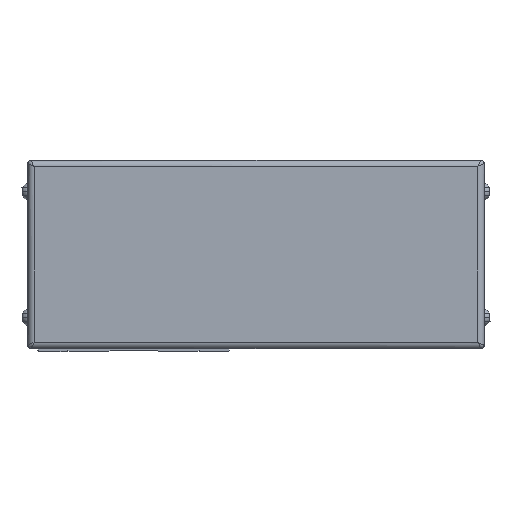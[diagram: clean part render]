
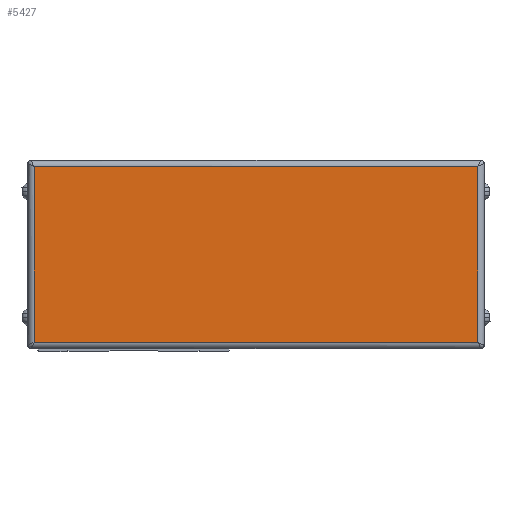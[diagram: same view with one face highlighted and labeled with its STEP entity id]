
A CAD part, left-side view. The second image highlights one B-rep face of the part: STEP entity #5427.
In plain terms, the highlighted planar face has unit normal (-1, 0, 0) as drawn and (0, 0, 1) by its records, which use the part's own axes.
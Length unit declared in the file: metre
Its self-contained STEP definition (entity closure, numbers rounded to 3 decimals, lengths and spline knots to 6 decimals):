
#5427=ADVANCED_FACE('',(#11209),#11210,.T.);
#11209=FACE_OUTER_BOUND('',#20187,.T.);
#11210=PLANE('',#20188);
#20187=EDGE_LOOP('',(#34117,#34118,#34119,#34120));
#20188=AXIS2_PLACEMENT_3D('',#34121,#34122,#34123);
#34117=ORIENTED_EDGE('',*,*,#44233,.F.);
#34118=ORIENTED_EDGE('',*,*,#46343,.F.);
#34119=ORIENTED_EDGE('',*,*,#46344,.F.);
#34120=ORIENTED_EDGE('',*,*,#42158,.F.);
#34121=CARTESIAN_POINT('',(-0.009,-0.053256,0.033889));
#34122=DIRECTION('',(0.0,0.0,1.0));
#34123=DIRECTION('',(1.0,0.0,0.0));
#42158=EDGE_CURVE('',#49368,#49371,#49372,.T.);
#44233=EDGE_CURVE('',#52768,#49368,#52770,.T.);
#46343=EDGE_CURVE('',#55331,#52768,#55851,.T.);
#46344=EDGE_CURVE('',#49371,#55331,#55852,.T.);
#49368=VERTEX_POINT('',#59634);
#49371=VERTEX_POINT('',#59646);
#49372=LINE('',#59647,#59648);
#52768=VERTEX_POINT('',#64768);
#52770=LINE('',#64779,#64780);
#55331=VERTEX_POINT('',#68587);
#55851=LINE('',#69367,#69368);
#55852=LINE('',#69369,#69370);
#59634=CARTESIAN_POINT('',(0.019,-0.123956,0.033889));
#59646=CARTESIAN_POINT('',(-0.037,-0.123956,0.033889));
#59647=CARTESIAN_POINT('',(-0.009,-0.123956,0.033889));
#59648=VECTOR('',#73158,1.0);
#64768=CARTESIAN_POINT('',(0.019,0.017444,0.033889));
#64779=CARTESIAN_POINT('',(0.019,-0.053256,0.033889));
#64780=VECTOR('',#75638,1.0);
#68587=CARTESIAN_POINT('',(-0.037,0.017444,0.033889));
#69367=CARTESIAN_POINT('',(-0.009,0.017444,0.033889));
#69368=VECTOR('',#78073,1.0);
#69369=CARTESIAN_POINT('',(-0.037,-0.053256,0.033889));
#69370=VECTOR('',#78074,1.0);
#73158=DIRECTION('',(-1.0,0.0,0.0));
#75638=DIRECTION('',(0.0,-1.0,0.0));
#78073=DIRECTION('',(1.0,0.0,0.0));
#78074=DIRECTION('',(0.0,1.0,0.0));
